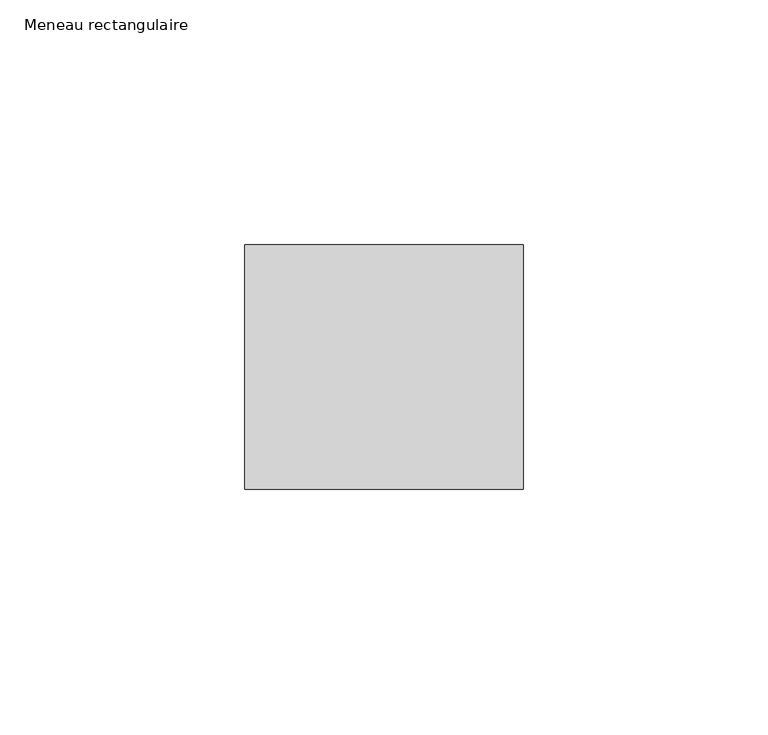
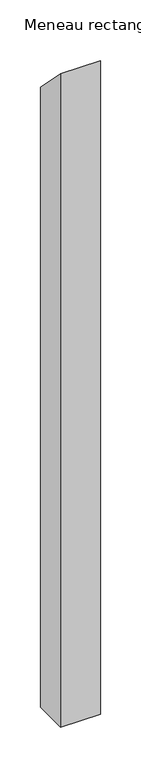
"""IFC4 building model written with IfcOpenShell, lengths in millimetres: member geometry, Meneau rectangulaire : LISSERIE_PLAFOND 85-KLP00-P80-SD57XC."""

from ifc_helpers import new_model, si_unit, frame, origin, place, context, project, spatial, polyline, outline, extrude, source, transform, mapped, element, save


def meneau_rectangulaire_d973b6f6(model_context):
    return source(origin(), model_context, "Body", "SweptSolid", [
        extrude(outline(polyline([(-25.0, 25.0), (25.0, -25.0), (25.0, -958.5), (-25.0, -958.5), (-25.0, 25.0)])), frame((-57.0, 0.0, 0.0), z_axis=(1.0, 0.0, 0.0), x_axis=(0.0, 1.0, 0.0)), (0.0, 0.0, 1.0), 57.0),
    ])


if __name__ == "__main__":
    model = new_model("IFC4")
    model_context = context("Model", 3, world=origin())
    ifc_project = project(units=[si_unit("LENGTHUNIT", "METRE", prefix="MILLI")], contexts=[model_context])
    site = spatial("IfcSite", under=ifc_project)
    building = spatial("IfcBuilding", under=site)
    placement = place(None, origin())
    meneau_rectangulaire_shape = meneau_rectangulaire_d973b6f6(model_context)
    element("IfcMember", 1, ObjectType="Meneau rectangulaire : LISSERIE_PLAFOND 85-KLP00-P80-SD57XC", at=placement, inside=building, context=model_context, shape_type="MappedRepresentation", body=[
        mapped(meneau_rectangulaire_shape, transform((0.0, 0.0, 0.0), x_axis=(1.0, 0.0, 0.0), y_axis=(0.0, 1.0, 0.0), z_axis=(0.0, 0.0, 1.0))),
    ])
    save(model, "model.ifc")
